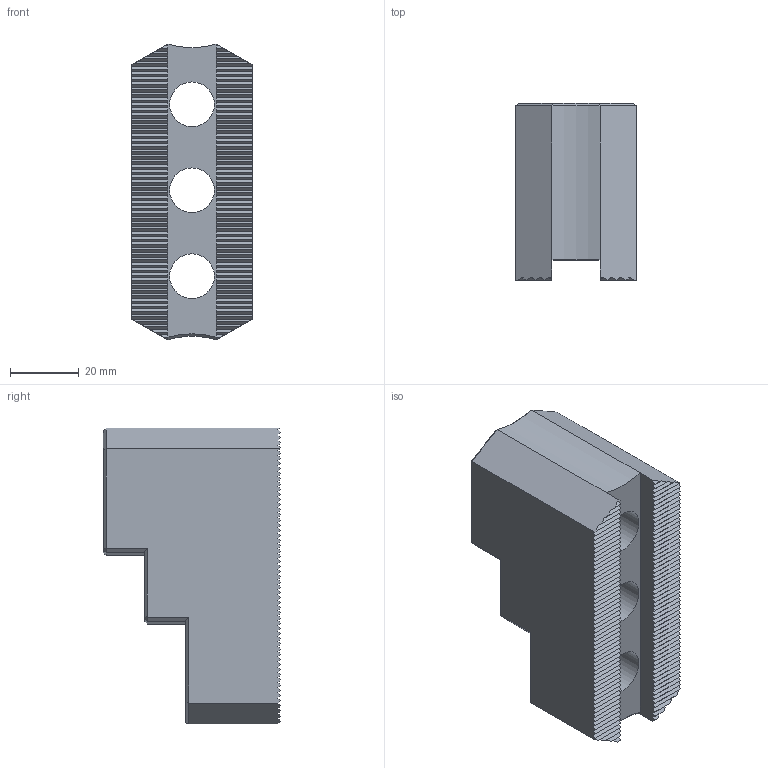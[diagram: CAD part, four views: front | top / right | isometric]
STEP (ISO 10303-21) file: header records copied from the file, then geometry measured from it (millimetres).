
FILE_DESCRIPTION(/* description */ (''),/* implementation_level */ '2;1');
FILE_NAME(/* name */ '',/* time_stamp */ '2025-10-17T15:10:35+03:00',/* author */ ('Arina Rekina'),/* organization */ (''),/* preprocessor_version */ 'ST-DEVELOPER v19.2',/* originating_system */ 'Autodesk Inventor 2024',/* authorisation */ '');
FILE_SCHEMA (('AUTOMOTIVE_DESIGN { 1 0 10303 214 3 1 1 }'));
Length unit declared in the file: millimetre
Products named in the file (1): кулачки сырые 
прямые
Bounding box: 35 x 51.5 x 86 mm (x, y, z)
Volume: 82625 mm3; surface area: 21625.7 mm2
Topology: 1 solids, 1 shells, 341 faces, 974 edges, 639 vertices
Faces by surface type: plane 314, cylinder 18, cone 9
Full cylindrical faces by diameter (mm): 13 x3, 19 x3
Entity records: 10995 total; most frequent: CARTESIAN_POINT 1999, ORIENTED_EDGE 1948, DIRECTION 1729, EDGE_CURVE 974, LINE 875, VECTOR 875, VERTEX_POINT 639, AXIS2_PLACEMENT_3D 427
